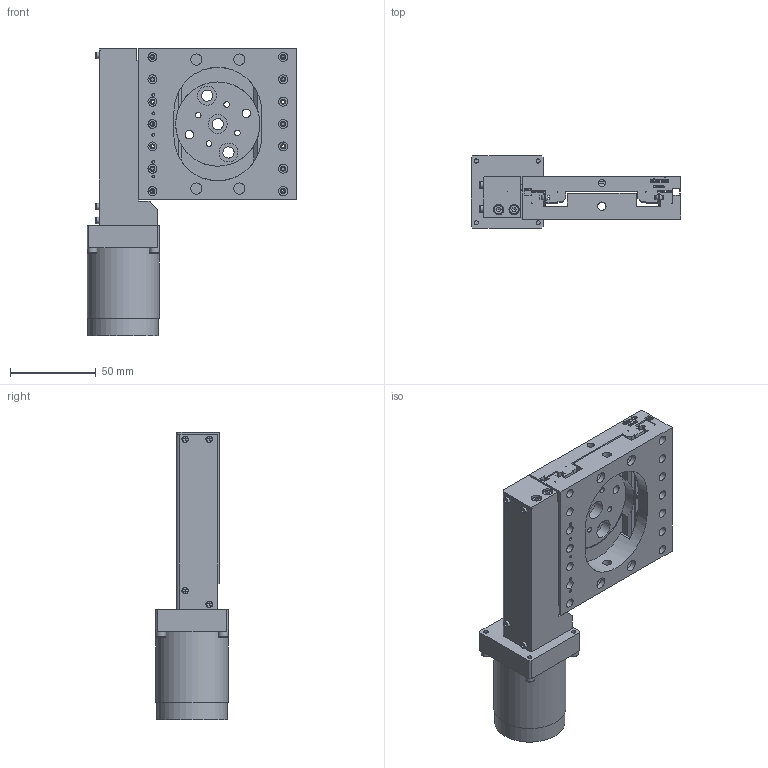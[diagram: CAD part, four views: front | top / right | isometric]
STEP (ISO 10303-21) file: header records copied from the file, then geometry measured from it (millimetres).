
FILE_DESCRIPTION(/* description */ (''),/* implementation_level */ '2;1');
FILE_NAME(/* name */ 'U:\KONSTRUKTORIAI\DOKUMENTACIJA\8\8MT167V-25LS-VSS42\step\8MT167V-25LS-VSS42.stp',/* time_stamp */ '2015-09-24T14:54:57+03:00',/* author */ ('dsgn33'),/* organization */ (''),/* preprocessor_version */ 'ST-DEVELOPER v15.2',/* originating_system */ 'Autodesk Inventor 2014',/* authorisation */ '');
FILE_SCHEMA (('AUTOMOTIVE_DESIGN { 1 0 10303 214 3 1 1 }'));
Length unit declared in the file: millimetre
Products named in the file (2): Part3; Assembly1
Bounding box: 122 x 42 x 167 mm (x, y, z)
Volume: 252842.4 mm3; surface area: 99209.2 mm2
Topology: 6 solids, 37 shells, 1254 faces, 3526 edges, 2409 vertices
Faces by surface type: plane 644, cylinder 399, cone 118, torus 68, sphere 25
Full cylindrical faces by diameter (mm): 1.2 x4, 1.221 x3, 1.5 x1, 1.55 x4, 1.567 x12, 1.6 x11, 1.8 x1, 2 x14, 2.013 x32, 2.459 x30, 2.5 x8, 2.8 x14, 2.9 x14, 3 x19, 3.2 x4, 3.242 x4, 3.4 x7, 3.8 x4, 4.134 x2, 4.3 x19, 4.5 x4, 4.9 x4, 4.917 x16, 5 x24, 5.2 x14, 5.5 x6, 6 x17, 6.5 x7, 6.92 x2, 8 x1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
Entity records: 39722 total; most frequent: CARTESIAN_POINT 10876, DIRECTION 5710, ORIENTED_EDGE 5392, EDGE_CURVE 2696, AXIS2_PLACEMENT_3D 2224, EDGE_LOOP 2139, VERTEX_POINT 2089, LINE 1262
